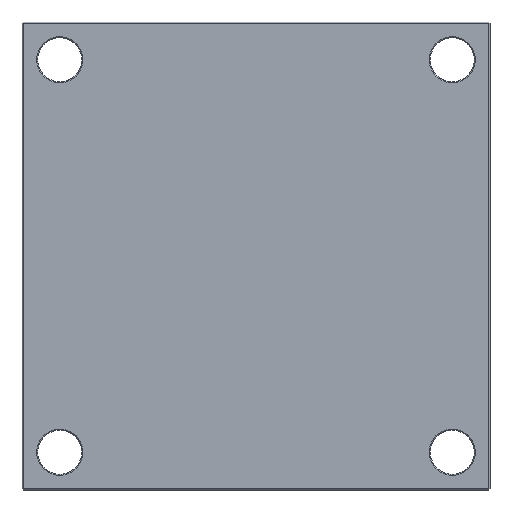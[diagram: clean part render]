
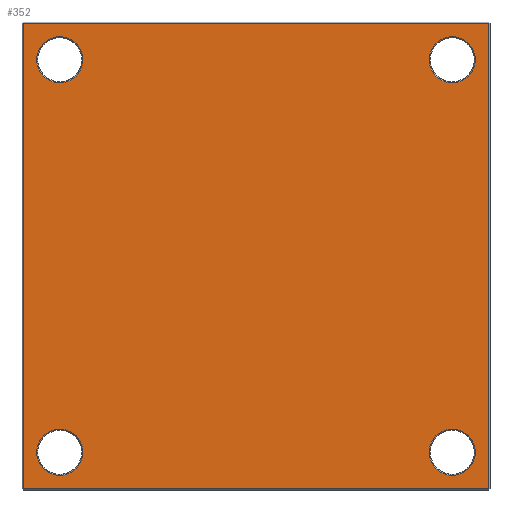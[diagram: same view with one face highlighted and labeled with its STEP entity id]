
A CAD part, front view. The second image highlights one B-rep face of the part: STEP entity #352.
In plain terms, the highlighted planar face has unit normal (0, -1, 0).
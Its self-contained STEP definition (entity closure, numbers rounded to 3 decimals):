
#15 = VECTOR ( 'NONE', #1048, 1000. ) ;
#25 = EDGE_CURVE ( 'NONE', #1763, #1659, #1427, .T. ) ;
#33 = LINE ( 'NONE', #997, #15 ) ;
#59 = CARTESIAN_POINT ( 'NONE',  ( -187., 0., 187. ) ) ;
#69 = DIRECTION ( 'NONE',  ( 0., 1., 0. ) ) ;
#73 = DIRECTION ( 'NONE',  ( 0., 0., 1. ) ) ;
#79 = EDGE_CURVE ( 'NONE', #1709, #1511, #1329, .T. ) ;
#99 = VECTOR ( 'NONE', #253, 1000. ) ;
#101 = LINE ( 'NONE', #165, #99 ) ;
#113 = CIRCLE ( 'NONE', #2019, 22. ) ;
#127 = VERTEX_POINT ( 'NONE', #532 ) ;
#165 = CARTESIAN_POINT ( 'NONE',  ( -222., 0., 0. ) ) ;
#194 = ORIENTED_EDGE ( 'NONE', *, *, #920, .T. ) ;
#204 = CARTESIAN_POINT ( 'NONE',  ( 187., 0., -165. ) ) ;
#239 = ORIENTED_EDGE ( 'NONE', *, *, #278, .T. ) ;
#253 = DIRECTION ( 'NONE',  ( 0., 0., -1. ) ) ;
#254 = EDGE_CURVE ( 'NONE', #309, #1357, #1166, .T. ) ;
#265 = ORIENTED_EDGE ( 'NONE', *, *, #1037, .T. ) ;
#266 = ORIENTED_EDGE ( 'NONE', *, *, #254, .T. ) ;
#276 = CARTESIAN_POINT ( 'NONE',  ( 187., 0., -187. ) ) ;
#278 = EDGE_CURVE ( 'NONE', #1251, #1189, #1139, .T. ) ;
#287 = DIRECTION ( 'NONE',  ( 0., 1., 0. ) ) ;
#298 = EDGE_CURVE ( 'NONE', #1189, #1251, #1087, .T. ) ;
#309 = VERTEX_POINT ( 'NONE', #657 ) ;
#348 = EDGE_LOOP ( 'NONE', ( #357, #194 ) ) ;
#352 = ADVANCED_FACE ( 'NONE', ( #984, #985, #978, #980, #976 ), #1609, .F. ) ;
#357 = ORIENTED_EDGE ( 'NONE', *, *, #79, .T. ) ;
#364 = CARTESIAN_POINT ( 'NONE',  ( 187., 0., 165. ) ) ;
#366 = EDGE_CURVE ( 'NONE', #127, #1697, #953, .T. ) ;
#411 = DIRECTION ( 'NONE',  ( 0., 0., 1. ) ) ;
#417 = ORIENTED_EDGE ( 'NONE', *, *, #25, .T. ) ;
#422 = ORIENTED_EDGE ( 'NONE', *, *, #1074, .T. ) ;
#470 = VECTOR ( 'NONE', #860, 1000. ) ;
#485 = CARTESIAN_POINT ( 'NONE',  ( -187., 0., 187. ) ) ;
#492 = DIRECTION ( 'NONE',  ( 0., 1., 0. ) ) ;
#496 = DIRECTION ( 'NONE',  ( 0., 0., 1. ) ) ;
#519 = CARTESIAN_POINT ( 'NONE',  ( -187., 0., -165. ) ) ;
#532 = CARTESIAN_POINT ( 'NONE',  ( 222., 0., -222. ) ) ;
#657 = CARTESIAN_POINT ( 'NONE',  ( 187., 0., 209. ) ) ;
#860 = DIRECTION ( 'NONE',  ( -1., 0., 0. ) ) ;
#909 = DIRECTION ( 'NONE',  ( 0., 0., 1. ) ) ;
#920 = EDGE_CURVE ( 'NONE', #1511, #1709, #113, .T. ) ;
#928 = VECTOR ( 'NONE', #1790, 1000. ) ;
#934 = EDGE_CURVE ( 'NONE', #1202, #1151, #101, .T. ) ;
#953 = LINE ( 'NONE', #1786, #928 ) ;
#976 = FACE_OUTER_BOUND ( 'NONE', #1550, .T. ) ;
#978 = FACE_BOUND ( 'NONE', #1699, .T. ) ;
#980 = FACE_BOUND ( 'NONE', #1552, .T. ) ;
#984 = FACE_BOUND ( 'NONE', #1557, .T. ) ;
#985 = FACE_BOUND ( 'NONE', #348, .T. ) ;
#997 = CARTESIAN_POINT ( 'NONE',  ( 0., 0., -222. ) ) ;
#1005 = EDGE_CURVE ( 'NONE', #1151, #127, #33, .T. ) ;
#1037 = EDGE_CURVE ( 'NONE', #1357, #309, #1840, .T. ) ;
#1039 = CARTESIAN_POINT ( 'NONE',  ( -187., 0., -209. ) ) ;
#1048 = DIRECTION ( 'NONE',  ( 1., 0., 0. ) ) ;
#1074 = EDGE_CURVE ( 'NONE', #1659, #1763, #1823, .T. ) ;
#1087 = CIRCLE ( 'NONE', #2172, 22. ) ;
#1126 = CARTESIAN_POINT ( 'NONE',  ( -222., 0., 222. ) ) ;
#1139 = CIRCLE ( 'NONE', #2135, 22. ) ;
#1151 = VERTEX_POINT ( 'NONE', #2175 ) ;
#1166 = CIRCLE ( 'NONE', #2120, 22. ) ;
#1189 = VERTEX_POINT ( 'NONE', #1860 ) ;
#1190 = CARTESIAN_POINT ( 'NONE',  ( 0., 0., 222. ) ) ;
#1202 = VERTEX_POINT ( 'NONE', #1126 ) ;
#1236 = CARTESIAN_POINT ( 'NONE',  ( 187., 0., 187. ) ) ;
#1251 = VERTEX_POINT ( 'NONE', #1634 ) ;
#1320 = DIRECTION ( 'NONE',  ( 0., 1., 0. ) ) ;
#1329 = CIRCLE ( 'NONE', #1847, 22. ) ;
#1339 = CARTESIAN_POINT ( 'NONE',  ( 187., 0., 187. ) ) ;
#1356 = DIRECTION ( 'NONE',  ( 0., 0., 1. ) ) ;
#1357 = VERTEX_POINT ( 'NONE', #364 ) ;
#1370 = DIRECTION ( 'NONE',  ( 0., 0., 1. ) ) ;
#1427 = CIRCLE ( 'NONE', #1753, 22. ) ;
#1461 = ORIENTED_EDGE ( 'NONE', *, *, #366, .T. ) ;
#1511 = VERTEX_POINT ( 'NONE', #204 ) ;
#1519 = DIRECTION ( 'NONE',  ( 0., 1., 0. ) ) ;
#1534 = CARTESIAN_POINT ( 'NONE',  ( 187., 0., -187. ) ) ;
#1550 = EDGE_LOOP ( 'NONE', ( #1461, #1782, #1796, #1801 ) ) ;
#1552 = EDGE_LOOP ( 'NONE', ( #1641, #239 ) ) ;
#1557 = EDGE_LOOP ( 'NONE', ( #417, #422 ) ) ;
#1570 = DIRECTION ( 'NONE',  ( 0., 0., 1. ) ) ;
#1579 = CARTESIAN_POINT ( 'NONE',  ( 222., 0., 222. ) ) ;
#1585 = DIRECTION ( 'NONE',  ( 0., 1., 0. ) ) ;
#1599 = DIRECTION ( 'NONE',  ( 0., 1., 0. ) ) ;
#1609 = PLANE ( 'NONE',  #1895 ) ;
#1634 = CARTESIAN_POINT ( 'NONE',  ( -187., 0., 209. ) ) ;
#1641 = ORIENTED_EDGE ( 'NONE', *, *, #298, .T. ) ;
#1650 = CARTESIAN_POINT ( 'NONE',  ( -187., 0., -187. ) ) ;
#1659 = VERTEX_POINT ( 'NONE', #519 ) ;
#1660 = DIRECTION ( 'NONE',  ( 0., 1., 0. ) ) ;
#1671 = DIRECTION ( 'NONE',  ( 0., 0., 1. ) ) ;
#1681 = DIRECTION ( 'NONE',  ( 0., 1., 0. ) ) ;
#1697 = VERTEX_POINT ( 'NONE', #1579 ) ;
#1699 = EDGE_LOOP ( 'NONE', ( #265, #266 ) ) ;
#1709 = VERTEX_POINT ( 'NONE', #2157 ) ;
#1710 = CARTESIAN_POINT ( 'NONE',  ( 0., 0., 0. ) ) ;
#1720 = DIRECTION ( 'NONE',  ( 0., 0., 1. ) ) ;
#1753 = AXIS2_PLACEMENT_3D ( 'NONE', #1949, #1585, #1570 ) ;
#1763 = VERTEX_POINT ( 'NONE', #1039 ) ;
#1782 = ORIENTED_EDGE ( 'NONE', *, *, #2131, .T. ) ;
#1786 = CARTESIAN_POINT ( 'NONE',  ( 222., 0., 0. ) ) ;
#1790 = DIRECTION ( 'NONE',  ( 0., 0., 1. ) ) ;
#1795 = LINE ( 'NONE', #1190, #470 ) ;
#1796 = ORIENTED_EDGE ( 'NONE', *, *, #934, .T. ) ;
#1801 = ORIENTED_EDGE ( 'NONE', *, *, #1005, .T. ) ;
#1823 = CIRCLE ( 'NONE', #2061, 22. ) ;
#1840 = CIRCLE ( 'NONE', #2047, 22. ) ;
#1847 = AXIS2_PLACEMENT_3D ( 'NONE', #1534, #1519, #909 ) ;
#1860 = CARTESIAN_POINT ( 'NONE',  ( -187., 0., 165. ) ) ;
#1895 = AXIS2_PLACEMENT_3D ( 'NONE', #1710, #1599, #1720 ) ;
#1949 = CARTESIAN_POINT ( 'NONE',  ( -187., 0., -187. ) ) ;
#2019 = AXIS2_PLACEMENT_3D ( 'NONE', #276, #287, #411 ) ;
#2047 = AXIS2_PLACEMENT_3D ( 'NONE', #1236, #1320, #1356 ) ;
#2061 = AXIS2_PLACEMENT_3D ( 'NONE', #1650, #1660, #1671 ) ;
#2120 = AXIS2_PLACEMENT_3D ( 'NONE', #1339, #1681, #1370 ) ;
#2131 = EDGE_CURVE ( 'NONE', #1697, #1202, #1795, .T. ) ;
#2135 = AXIS2_PLACEMENT_3D ( 'NONE', #59, #69, #73 ) ;
#2157 = CARTESIAN_POINT ( 'NONE',  ( 187., 0., -209. ) ) ;
#2172 = AXIS2_PLACEMENT_3D ( 'NONE', #485, #492, #496 ) ;
#2175 = CARTESIAN_POINT ( 'NONE',  ( -222., 0., -222. ) ) ;
